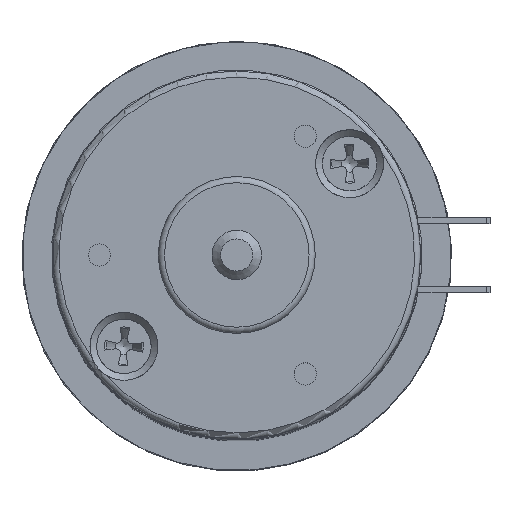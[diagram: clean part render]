
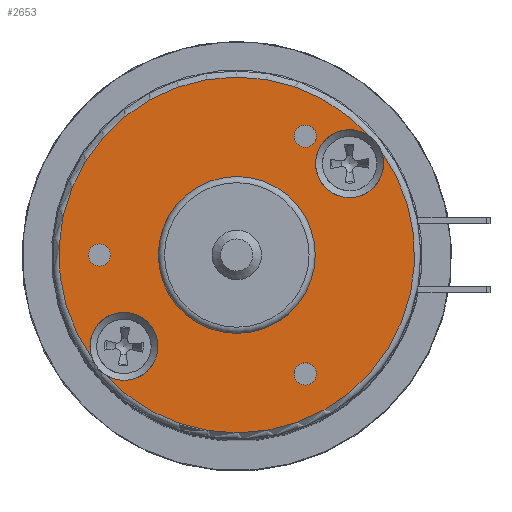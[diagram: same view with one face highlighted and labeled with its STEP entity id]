
A CAD part, top view. The second image highlights one B-rep face of the part: STEP entity #2653.
In plain terms, the highlighted planar face has unit normal (0, 0, 1).
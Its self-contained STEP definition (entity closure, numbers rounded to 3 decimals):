
#1980=CARTESIAN_POINT('',(0.,-6.35,83.0));
#1981=VERTEX_POINT('',#1980);
#1982=CARTESIAN_POINT('',(0.,0.,83.0));
#1983=DIRECTION('',(0.0,0.0,-1.0));
#1984=DIRECTION('',(0.0,1.0,0.0));
#1985=AXIS2_PLACEMENT_3D('',#1982,#1983,#1984);
#1986=CIRCLE('',#1985,6.35);
#1987=EDGE_CURVE('',#1981,#1981,#1986,.T.);
#2528=CARTESIAN_POINT('',(10.661,9.68,83.0));
#2529=VERTEX_POINT('',#2528);
#2530=CARTESIAN_POINT('',(11.685,8.416,83.0));
#2531=VERTEX_POINT('',#2530);
#2551=CARTESIAN_POINT('',(-10.661,-9.68,83.0));
#2552=VERTEX_POINT('',#2551);
#2553=CARTESIAN_POINT('',(0.,0.,83.0));
#2554=DIRECTION('',(0.0,0.0,-1.0));
#2555=DIRECTION('',(0.0,-1.0,0.0));
#2556=AXIS2_PLACEMENT_3D('',#2553,#2554,#2555);
#2557=CIRCLE('',#2556,14.4);
#2558=EDGE_CURVE('',#2531,#2552,#2557,.T.);
#2560=CARTESIAN_POINT('',(-11.685,-8.416,83.0));
#2561=VERTEX_POINT('',#2560);
#2581=CARTESIAN_POINT('',(0.,0.,83.0));
#2582=DIRECTION('',(0.0,0.0,-1.0));
#2583=DIRECTION('',(0.0,-1.0,0.0));
#2584=AXIS2_PLACEMENT_3D('',#2581,#2582,#2583);
#2585=CIRCLE('',#2584,14.4);
#2586=EDGE_CURVE('',#2561,#2529,#2585,.T.);
#2594=CARTESIAN_POINT('',(0.,0.,83.0));
#2595=DIRECTION('',(0.0,0.0,-1.0));
#2596=DIRECTION('',(0.0,1.0,0.0));
#2597=AXIS2_PLACEMENT_3D('',#2594,#2595,#2596);
#2598=PLANE('',#2597);
#2599=CARTESIAN_POINT('',(9.131,7.395,83.0));
#2600=DIRECTION('',(0.0,0.0,-1.0));
#2601=DIRECTION('',(0.0,-1.0,0.0));
#2602=AXIS2_PLACEMENT_3D('',#2599,#2600,#2601);
#2603=CIRCLE('',#2602,2.75);
#2604=EDGE_CURVE('',#2531,#2529,#2603,.T.);
#2605=ORIENTED_EDGE('',*,*,#2604,.T.);
#2606=ORIENTED_EDGE('',*,*,#2586,.F.);
#2607=CARTESIAN_POINT('',(-9.131,-7.395,83.0));
#2608=DIRECTION('',(0.0,0.0,-1.0));
#2609=DIRECTION('',(0.0,-1.0,0.0));
#2610=AXIS2_PLACEMENT_3D('',#2607,#2608,#2609);
#2611=CIRCLE('',#2610,2.75);
#2612=EDGE_CURVE('',#2561,#2552,#2611,.T.);
#2613=ORIENTED_EDGE('',*,*,#2612,.T.);
#2614=ORIENTED_EDGE('',*,*,#2558,.F.);
#2615=EDGE_LOOP('',(#2605,#2606,#2613,#2614));
#2616=FACE_OUTER_BOUND('',#2615,.T.);
#2617=CARTESIAN_POINT('',(-11.113,-0.9,83.0));
#2618=VERTEX_POINT('',#2617);
#2619=CARTESIAN_POINT('',(-11.113,0.,83.0));
#2620=DIRECTION('',(0.0,0.0,-1.0));
#2621=DIRECTION('',(0.0,-1.0,0.0));
#2622=AXIS2_PLACEMENT_3D('',#2619,#2620,#2621);
#2623=CIRCLE('',#2622,0.9);
#2624=EDGE_CURVE('',#2618,#2618,#2623,.T.);
#2625=ORIENTED_EDGE('',*,*,#2624,.T.);
#2626=EDGE_LOOP('',(#2625));
#2627=FACE_BOUND('',#2626,.T.);
#2628=CARTESIAN_POINT('',(5.556,8.724,83.0));
#2629=VERTEX_POINT('',#2628);
#2630=CARTESIAN_POINT('',(5.556,9.624,83.0));
#2631=DIRECTION('',(0.0,0.0,-1.0));
#2632=DIRECTION('',(0.0,-1.0,0.0));
#2633=AXIS2_PLACEMENT_3D('',#2630,#2631,#2632);
#2634=CIRCLE('',#2633,0.9);
#2635=EDGE_CURVE('',#2629,#2629,#2634,.T.);
#2636=ORIENTED_EDGE('',*,*,#2635,.T.);
#2637=EDGE_LOOP('',(#2636));
#2638=FACE_BOUND('',#2637,.T.);
#2639=CARTESIAN_POINT('',(5.556,-10.524,83.0));
#2640=VERTEX_POINT('',#2639);
#2641=CARTESIAN_POINT('',(5.556,-9.624,83.0));
#2642=DIRECTION('',(0.0,0.0,-1.0));
#2643=DIRECTION('',(0.0,-1.0,0.0));
#2644=AXIS2_PLACEMENT_3D('',#2641,#2642,#2643);
#2645=CIRCLE('',#2644,0.9);
#2646=EDGE_CURVE('',#2640,#2640,#2645,.T.);
#2647=ORIENTED_EDGE('',*,*,#2646,.T.);
#2648=EDGE_LOOP('',(#2647));
#2649=FACE_BOUND('',#2648,.T.);
#2650=ORIENTED_EDGE('',*,*,#1987,.T.);
#2651=EDGE_LOOP('',(#2650));
#2652=FACE_BOUND('',#2651,.T.);
#2653=ADVANCED_FACE('',(#2616,#2627,#2638,#2649,#2652),#2598,.F.);
